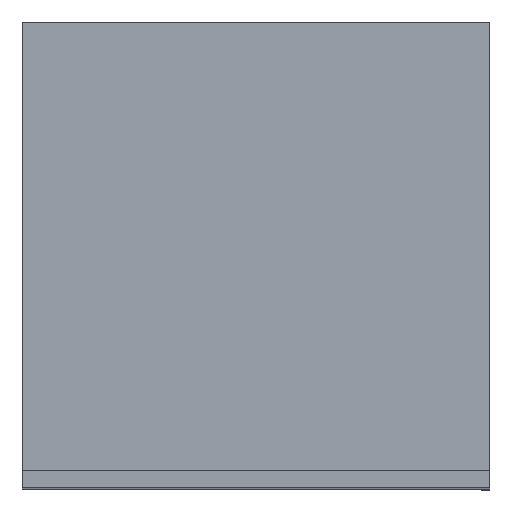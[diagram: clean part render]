
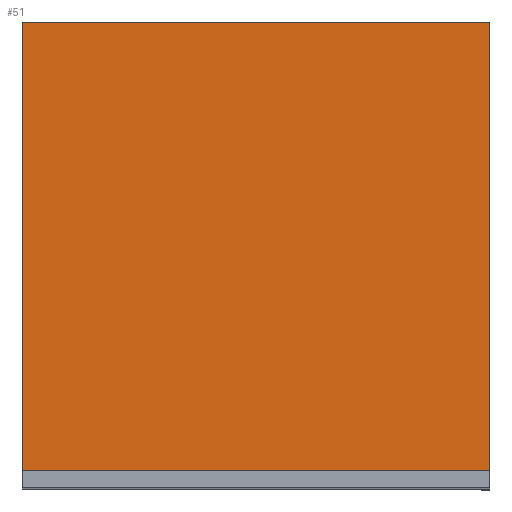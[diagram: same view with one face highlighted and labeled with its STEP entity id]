
A CAD part, top view. The second image highlights one B-rep face of the part: STEP entity #51.
In plain terms, the highlighted planar face has unit normal (0, 0, 1).
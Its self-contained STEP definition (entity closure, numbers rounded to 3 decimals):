
#51=ADVANCED_FACE('',(#69),#273,.T.);
#69=FACE_OUTER_BOUND('',#87,.T.);
#87=EDGE_LOOP('',(#153,#154,#155,#156));
#153=ORIENTED_EDGE('',*,*,#185,.F.);
#154=ORIENTED_EDGE('',*,*,#189,.F.);
#155=ORIENTED_EDGE('',*,*,#192,.F.);
#156=ORIENTED_EDGE('',*,*,#195,.F.);
#185=EDGE_CURVE('',#249,#250,#221,.T.);
#189=EDGE_CURVE('',#253,#249,#225,.T.);
#192=EDGE_CURVE('',#255,#253,#228,.T.);
#195=EDGE_CURVE('',#250,#255,#231,.T.);
#221=B_SPLINE_CURVE_WITH_KNOTS('',1,(#427,#428),.UNSPECIFIED.,.F.,.F.,(2,
2),(-1.798,0.),.UNSPECIFIED.);
#225=B_SPLINE_CURVE_WITH_KNOTS('',1,(#435,#436),.UNSPECIFIED.,.F.,.F.,(2,
2),(-1.722,0.),.UNSPECIFIED.);
#228=B_SPLINE_CURVE_WITH_KNOTS('',1,(#441,#442),.UNSPECIFIED.,.F.,.F.,(2,
2),(-1.798,0.),.UNSPECIFIED.);
#231=B_SPLINE_CURVE_WITH_KNOTS('',1,(#447,#448),.UNSPECIFIED.,.F.,.F.,(2,
2),(-1.722,0.),.UNSPECIFIED.);
#249=VERTEX_POINT('',#419);
#250=VERTEX_POINT('',#420);
#253=VERTEX_POINT('',#423);
#255=VERTEX_POINT('',#425);
#273=PLANE('',#311);
#311=AXIS2_PLACEMENT_3D('',#417,#332,$);
#332=DIRECTION('',(0.,0.,1.));
#417=CARTESIAN_POINT('',(274.01,563.01,1777.));
#419=CARTESIAN_POINT('',(-274.,563.,1777.));
#420=CARTESIAN_POINT('',(274.,563.,1777.));
#423=CARTESIAN_POINT('',(-274.,38.,1777.));
#425=CARTESIAN_POINT('',(274.,38.,1777.));
#427=CARTESIAN_POINT('',(-274.,563.,1777.));
#428=CARTESIAN_POINT('',(274.,563.,1777.));
#435=CARTESIAN_POINT('',(-274.,38.,1777.));
#436=CARTESIAN_POINT('',(-274.,563.,1777.));
#441=CARTESIAN_POINT('',(274.,38.,1777.));
#442=CARTESIAN_POINT('',(-274.,38.,1777.));
#447=CARTESIAN_POINT('',(274.,563.,1777.));
#448=CARTESIAN_POINT('',(274.,38.,1777.));
